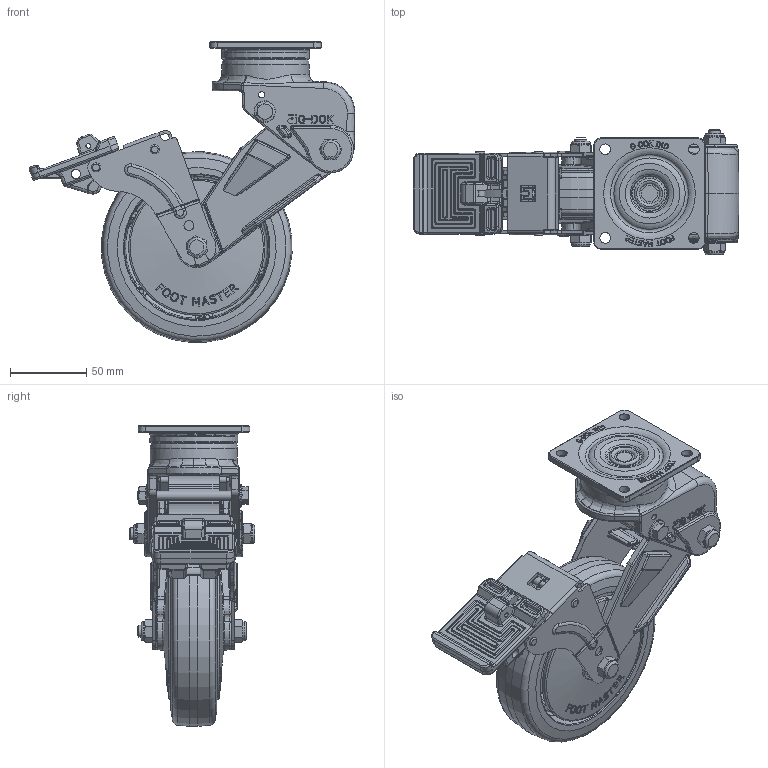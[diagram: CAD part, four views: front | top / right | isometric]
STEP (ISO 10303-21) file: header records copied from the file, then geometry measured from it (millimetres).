
FILE_DESCRIPTION(/* description */ (''),/* implementation_level */ '2;1');
FILE_NAME(/* name */ 'Z:\1.기술연구소\1.도면\제품도면\1.양산품\34.GDSB-SERIES\2.GDSB-125\1.진행도면\3.3D_홈페이지용 내부 간략화\내부 간략화\홈페이지 3D 도면\GDSB-125-BRF-LUD.stp',/* time_stamp */ '2022-08-20T09:58:48+09:00',/* author */ ('admin'),/* organization */ (''),/* preprocessor_version */ 'ST-DEVELOPER v18.1',/* originating_system */ 'Autodesk Inventor 2021',/* authorisation */ '');
FILE_SCHEMA (('AUTOMOTIVE_DESIGN { 1 0 10303 214 3 1 1 }'));
Products named in the file (1): GDSB-125-BRF-LUD
Bounding box: 213.2 x 82 x 196.81 mm (x, y, z)
Volume: 533299 mm3; surface area: 183008.2 mm2
Topology: 1 solids, 5 shells, 3835 faces, 9534 edges, 5747 vertices
Faces by surface type: plane 1234, bspline 1220, cylinder 865, torus 248, cone 192, sphere 76
Full cylindrical faces by diameter (mm): 3 x3, 3.1 x2, 4 x3, 4.2 x6, 6 x9, 6.2 x2, 6.5 x2, 7 x4, 7.4 x1, 7.95 x5, 8 x1, 8.2 x2, 9.95 x1, 10.2 x4, 10.7 x1, 11.6 x2, 12.5 x4, 14 x2, 20 x2, 55.855 x2, 57 x1, 125 x1
Entity records: 152416 total; most frequent: CARTESIAN_POINT 63030, ORIENTED_EDGE 18906, DIRECTION 16384, EDGE_CURVE 9453, AXIS2_PLACEMENT_3D 6259, VERTEX_POINT 5747, EDGE_LOOP 4029, LINE 3866
